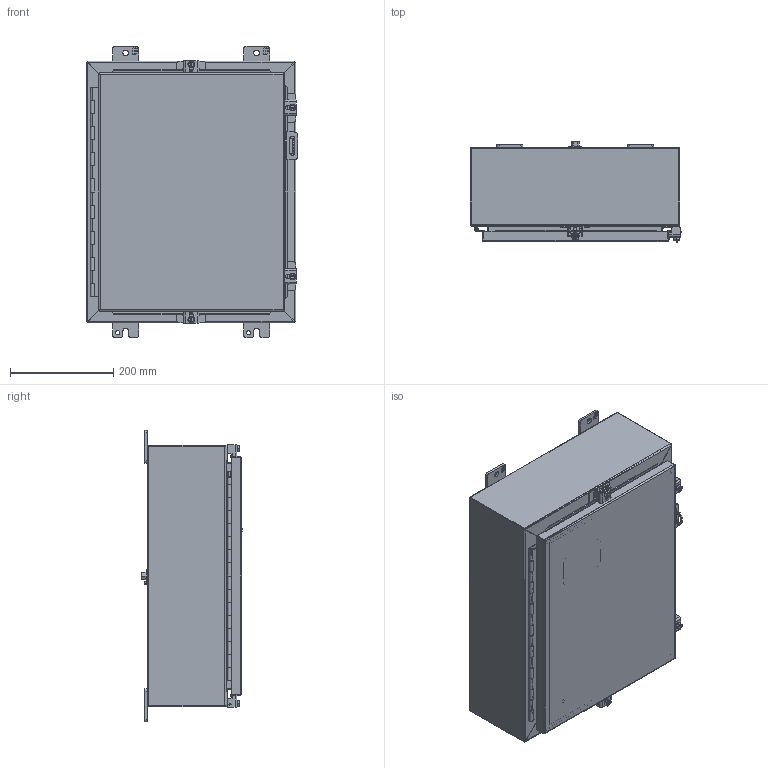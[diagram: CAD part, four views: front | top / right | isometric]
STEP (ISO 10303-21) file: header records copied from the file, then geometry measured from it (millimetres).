
FILE_DESCRIPTION(/* description */ ('Unknown'),/* implementation_level */ '2;1');
FILE_NAME(/* name */ '1418N4C6',/* time_stamp */ '2018-10-10T08:41:21-04:00',/* author */ ('Unknown'),/* organization */ ('Unknown'),/* preprocessor_version */ 'ST-DEVELOPER v16.7',/* originating_system */ 'DEX',/* authorisation */ $);
FILE_SCHEMA (('AUTOMOTIVE_DESIGN {1 0 10303 214 3 1 1}'));
Length unit declared in the file: millimetre
Products named in the file (31): 1418N4C6; COM40153-1; COM40672; STD21878; std26094; COM56225; COM40153-2; HNG10620-16C; KIT95018; WAF25059; NTS166105; LAB30005; BUL10020; COM48425; FET07710; COM42780; AKT90223; SPR20265; SCC19011; WAF25035; COM42667; HNG10620-16P; QLB20183; KIT90256; NTS165305; NTS16535; PKT66; AKT95002; COM70219_oa_0; HNG10620-16B
Assembly tree (47 placements, depth 3):
  1418N4C6
    COM40153-1
    COM40672
    STD21878
    std26094  x4
    COM56225
      COM40153-2
      HNG10620-16C
      COM56225
      STD21878
    KIT95018
      WAF25059
      NTS166105
      LAB30005
    BUL10020
    COM48425
    FET07710  x4
    COM42780  x4
    AKT90223  x4
      SPR20265
      SCC19011
      WAF25035
      COM42667
    HNG10620-16P
    QLB20183
    KIT90256
      LAB30005
      NTS165305
      NTS16535
    PKT66
    AKT95002  x2
      WAF25059
      NTS166105
    COM70219_oa_0
    HNG10620-16B
Bounding box: 409.6 x 194.72 x 565.15 mm (x, y, z)
Volume: 2107608.9 mm3; surface area: 2164006 mm2
Topology: 49 solids, 50 shells, 1617 faces, 4185 edges, 2708 vertices
Faces by surface type: plane 1028, cylinder 378, bspline 159, cone 26, torus 24, sphere 2
Full cylindrical faces by diameter (mm): 3.175 x1, 4.763 x1, 4.976 x1, 5.41 x4, 6.198 x4, 6.35 x3, 6.731 x4, 7.137 x2, 7.805 x3, 7.938 x4, 8.382 x4, 9.525 x4, 9.906 x4, 11.113 x4, 11.303 x3, 12.7 x8, 16.51 x4, 25.4 x3, 88.9 x1
Entity records: 34353 total; most frequent: CARTESIAN_POINT 10056, ORIENTED_EDGE 5128, DIRECTION 4387, EDGE_CURVE 2564, LINE 1715, VECTOR 1715, VERTEX_POINT 1649, AXIS2_PLACEMENT_3D 1336
